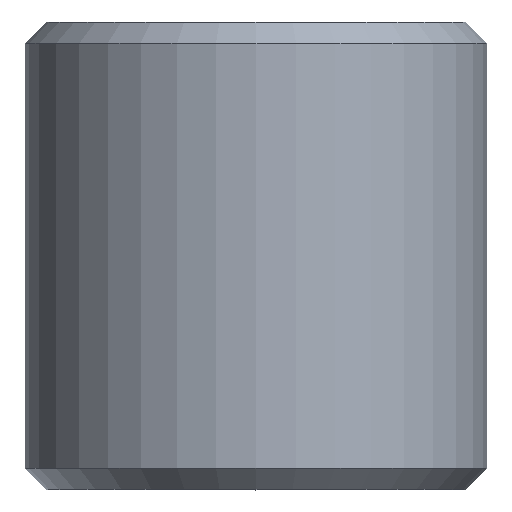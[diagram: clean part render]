
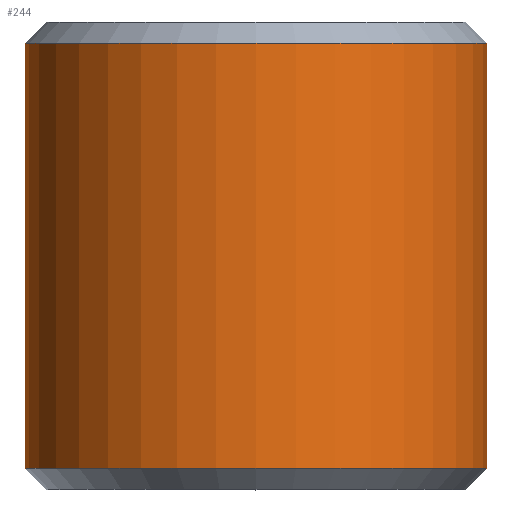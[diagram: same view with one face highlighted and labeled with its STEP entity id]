
A CAD part, top view. The second image highlights one B-rep face of the part: STEP entity #244.
In plain terms, the highlighted cylindrical face has radius 3.914 mm (diameter 7.828 mm), a full revolution.
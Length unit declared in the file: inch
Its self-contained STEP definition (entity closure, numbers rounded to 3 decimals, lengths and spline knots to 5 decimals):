
#16=CYLINDRICAL_SURFACE('',#274,0.1541);
#18=CIRCLE('',#272,0.1541);
#19=CIRCLE('',#273,0.1541);
#20=CIRCLE('',#275,0.1541);
#21=CIRCLE('',#276,0.1541);
#34=FACE_OUTER_BOUND('',#47,.T.);
#47=EDGE_LOOP('',(#193,#194,#195,#196,#197,#198));
#67=LINE('',#425,#83);
#83=VECTOR('',#321,0.156);
#117=VERTEX_POINT('',#418);
#118=VERTEX_POINT('',#420);
#119=VERTEX_POINT('',#424);
#120=VERTEX_POINT('',#426);
#149=EDGE_CURVE('',#117,#118,#18,.F.);
#150=EDGE_CURVE('',#118,#117,#19,.F.);
#151=EDGE_CURVE('',#118,#119,#67,.T.);
#152=EDGE_CURVE('',#120,#119,#20,.F.);
#153=EDGE_CURVE('',#119,#120,#21,.F.);
#193=ORIENTED_EDGE('',*,*,#150,.F.);
#194=ORIENTED_EDGE('',*,*,#151,.T.);
#195=ORIENTED_EDGE('',*,*,#152,.F.);
#196=ORIENTED_EDGE('',*,*,#153,.F.);
#197=ORIENTED_EDGE('',*,*,#151,.F.);
#198=ORIENTED_EDGE('',*,*,#149,.F.);
#244=ADVANCED_FACE('',(#34),#16,.T.);
#272=AXIS2_PLACEMENT_3D('',#421,#315,#316);
#273=AXIS2_PLACEMENT_3D('',#422,#317,#318);
#274=AXIS2_PLACEMENT_3D('',#423,#319,#320);
#275=AXIS2_PLACEMENT_3D('',#427,#322,#323);
#276=AXIS2_PLACEMENT_3D('',#428,#324,#325);
#315=DIRECTION('center_axis',(0.,1.,0.));
#316=DIRECTION('ref_axis',(0.,0.,-1.));
#317=DIRECTION('center_axis',(0.,1.,0.));
#318=DIRECTION('ref_axis',(0.,0.,-1.));
#319=DIRECTION('center_axis',(0.,-1.,0.));
#320=DIRECTION('ref_axis',(0.,0.,-1.));
#321=DIRECTION('',(0.,1.,0.));
#322=DIRECTION('center_axis',(0.,-1.,0.));
#323=DIRECTION('ref_axis',(0.,0.,-1.));
#324=DIRECTION('center_axis',(0.,-1.,0.));
#325=DIRECTION('ref_axis',(0.,0.,-1.));
#418=CARTESIAN_POINT('',(0.,0.0141,-0.1541));
#420=CARTESIAN_POINT('',(0.,0.0141,0.1541));
#421=CARTESIAN_POINT('Origin',(0.,0.0141,0.));
#422=CARTESIAN_POINT('Origin',(0.,0.0141,0.));
#423=CARTESIAN_POINT('Origin',(0.,0.156,0.));
#424=CARTESIAN_POINT('',(0.,0.2979,0.1541));
#425=CARTESIAN_POINT('',(0.,0.156,0.1541));
#426=CARTESIAN_POINT('',(0.,0.2979,-0.1541));
#427=CARTESIAN_POINT('Origin',(0.,0.2979,0.));
#428=CARTESIAN_POINT('Origin',(0.,0.2979,0.));
